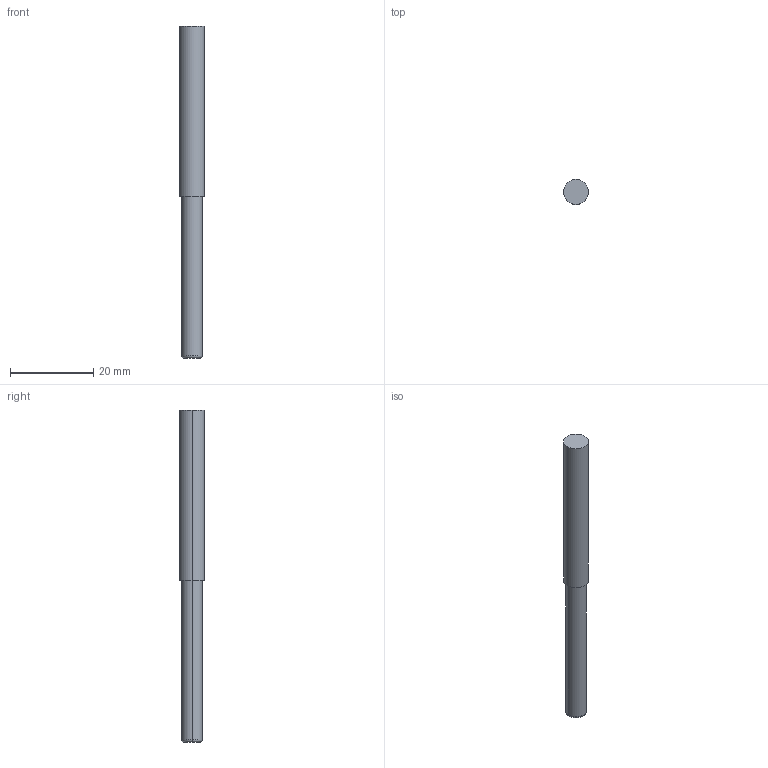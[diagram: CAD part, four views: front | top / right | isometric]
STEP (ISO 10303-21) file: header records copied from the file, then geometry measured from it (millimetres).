
FILE_DESCRIPTION(('STEP AP214'),'1');
FILE_NAME('cctmp_AE10496E-5A0B-46B7-A21D-E73EC9F6475A_2020_10_01_07_18_00_0615..stp','2020-10-01T05:18:00',('Meusburger Georg GmbH & Co KG'),('CADClick - www.CADClick.com'),'Spatial InterOp 3D',' ','unknown authorization');
FILE_SCHEMA(('AUTOMOTIVE_DESIGN { 1 0 10303 214 1 1 1 1 }'));
Length unit declared in the file: millimetre
Products named in the file (1): WZF17428_5_0.5
Bounding box: 6 x 6 x 80 mm (x, y, z)
Volume: 1924.2 mm3; surface area: 1438.5 mm2
Topology: 1 solids, 1 shells, 9 faces, 16 edges, 10 vertices
Faces by surface type: cylinder 4, plane 3, torus 2
Entity records: 322 total; most frequent: DIRECTION 48, CARTESIAN_POINT 36, ORIENTED_EDGE 32, AXIS2_PLACEMENT_3D 22, EDGE_CURVE 16, CIRCLE 12, STYLED_ITEM 10, PRESENTATION_STYLE_ASSIGNMENT 10
